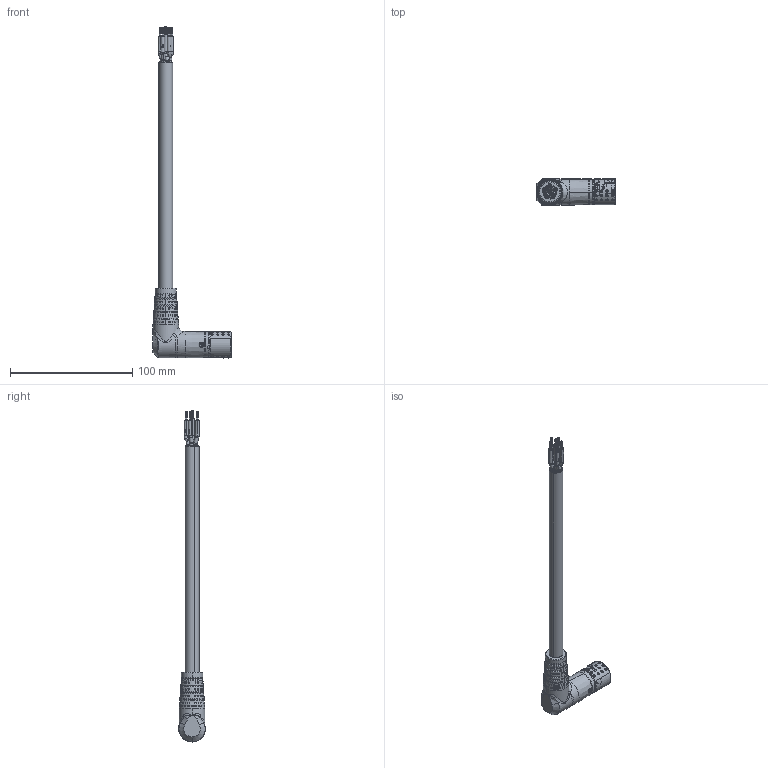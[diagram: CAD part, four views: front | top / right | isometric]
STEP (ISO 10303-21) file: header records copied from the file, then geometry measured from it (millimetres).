
FILE_DESCRIPTION (( 'STEP AP214' ), '1' );
FILE_NAME ('W-TEC 15K GLATT-BU-90°R 6x.STEP', '2021-05-28T10:19:57', ( '' ), ( '' ), 'SwSTEP 2.0', 'SolidWorks 2021', '' );
FILE_SCHEMA (( 'AUTOMOTIVE_DESIGN' ));
Length unit declared in the file: millimetre
Products named in the file (1): W-TEC 15K GLATT-BU-90訌 6x
Bounding box: 63.92 x 21.84 x 271.92 mm (x, y, z)
Surface area: 19944.2 mm2 (no closed solid volume)
Topology: 0 solids, 12 shells, 2187 faces, 5285 edges, 3446 vertices
Faces by surface type: cylinder 935, plane 706, bspline 504, cone 39, torus 3
Entity records: 119870 total; most frequent: CARTESIAN_POINT 47896, ORIENTED_EDGE 10291, DIRECTION 9223, EDGE_CURVE 5214, AXIS2_PLACEMENT_3D 3786, VERTEX_POINT 3446, EDGE_LOOP 2605, UNCERTAINTY_MEASURE_WITH_UNIT 2190
